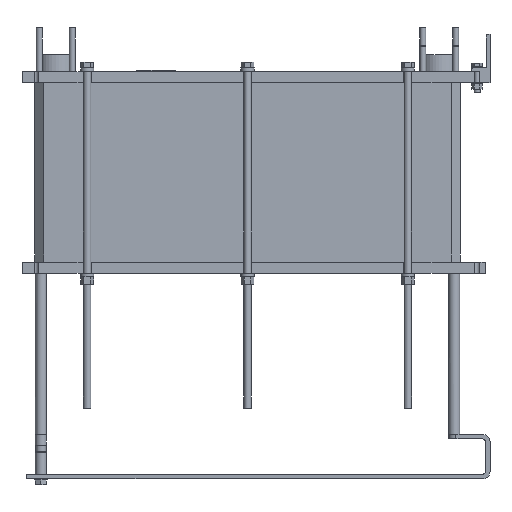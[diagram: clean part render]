
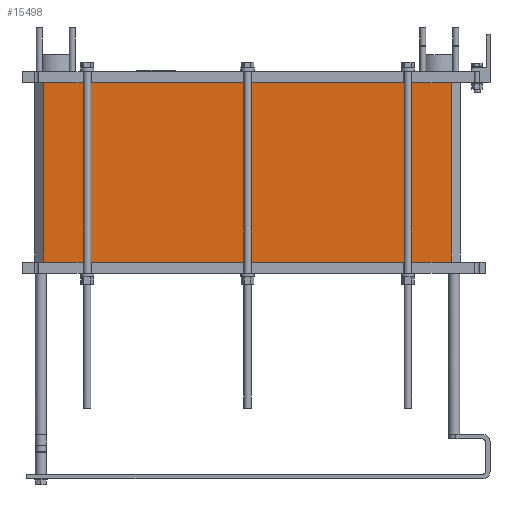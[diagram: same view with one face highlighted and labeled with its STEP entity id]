
A CAD part, left-side view. The second image highlights one B-rep face of the part: STEP entity #15498.
In plain terms, the highlighted planar face has unit normal (-1, 0, 0).
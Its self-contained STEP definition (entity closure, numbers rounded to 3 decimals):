
#1466=LINE('',#25351,#3061);
#1504=LINE('',#25451,#3099);
#1581=LINE('',#25620,#3176);
#1582=LINE('',#25622,#3177);
#3061=VECTOR('',#20768,1100.);
#3099=VECTOR('',#20836,1100.);
#3176=VECTOR('',#21073,484.5);
#3177=VECTOR('',#21076,484.5);
#3778=PLANE('',#16875);
#4825=FACE_OUTER_BOUND('',#5876,.T.);
#5876=EDGE_LOOP('',(#14021,#14022,#14023,#14024));
#7881=VERTEX_POINT('',#25348);
#7882=VERTEX_POINT('',#25350);
#7928=VERTEX_POINT('',#25448);
#7929=VERTEX_POINT('',#25450);
#9875=EDGE_CURVE('',#7881,#7882,#1466,.T.);
#9923=EDGE_CURVE('',#7929,#7928,#1504,.T.);
#10006=EDGE_CURVE('',#7881,#7929,#1581,.T.);
#10007=EDGE_CURVE('',#7882,#7928,#1582,.T.);
#14021=ORIENTED_EDGE('',*,*,#9923,.T.);
#14022=ORIENTED_EDGE('',*,*,#10007,.F.);
#14023=ORIENTED_EDGE('',*,*,#9875,.F.);
#14024=ORIENTED_EDGE('',*,*,#10006,.T.);
#15498=ADVANCED_FACE('',(#4825),#3778,.T.);
#16875=AXIS2_PLACEMENT_3D('',#25621,#21074,#21075);
#20768=DIRECTION('',(0.,-1.,0.));
#20836=DIRECTION('',(0.,-1.,0.));
#21073=DIRECTION('',(0.,0.,-1.));
#21074=DIRECTION('center_axis',(-1.,0.,0.));
#21075=DIRECTION('ref_axis',(0.,0.,1.));
#21076=DIRECTION('',(0.,0.,-1.));
#25348=CARTESIAN_POINT('',(-125.,550.,0.));
#25350=CARTESIAN_POINT('',(-125.,-550.,0.));
#25351=CARTESIAN_POINT('',(-125.,264.791,0.));
#25448=CARTESIAN_POINT('',(-125.,-550.,-484.5));
#25450=CARTESIAN_POINT('',(-125.,550.,-484.5));
#25451=CARTESIAN_POINT('',(-125.,575.,-484.5));
#25620=CARTESIAN_POINT('',(-125.,550.,0.));
#25621=CARTESIAN_POINT('Origin',(-125.,550.,0.));
#25622=CARTESIAN_POINT('',(-125.,-550.,0.));
